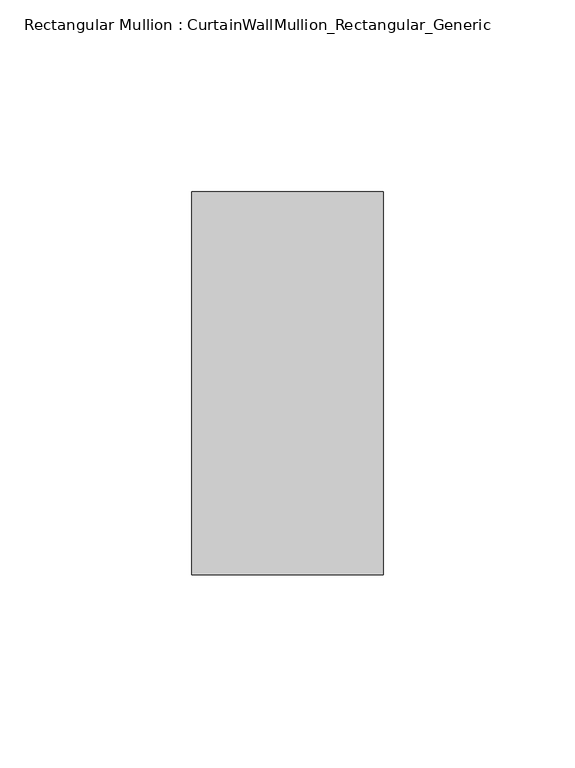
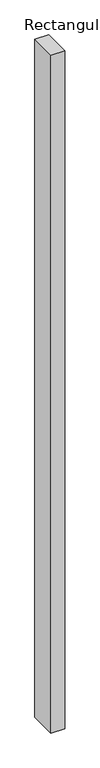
"""IFC4 building model written with IfcOpenShell, lengths in millimetres: member geometry, Rectangular Mullion : CurtainWallMullion_Rectangular_Generic."""

from ifc_helpers import new_model, si_unit, frame, origin, place, context, project, spatial, polyline, outline, extrude, source, transform, mapped, element, save


def rectangular_mullion_curtainwallmullion_rectangular_generic_e7c47ca9(model_context):
    return source(origin(), model_context, "Body", "SweptSolid", [
        extrude(outline(polyline([(0.0, 50.0), (0.0, -50.0), (-50.0, -50.0), (-50.0, 50.0), (0.0, 50.0)])), frame((0.0, 0.0, -2600.0), z_axis=(0.0, 0.0, 1.0), x_axis=(1.0, 0.0, 0.0)), (0.0, 0.0, 1.0), 2600.0),
    ])


if __name__ == "__main__":
    model = new_model("IFC4")
    model_context = context("Model", 3, world=origin())
    ifc_project = project(units=[si_unit("LENGTHUNIT", "METRE", prefix="MILLI")], contexts=[model_context])
    site = spatial("IfcSite", under=ifc_project)
    building = spatial("IfcBuilding", under=site)
    placement = place(None, origin())
    rectangular_mullion_curtainwallmullion_rectangular_generic_shape = rectangular_mullion_curtainwallmullion_rectangular_generic_e7c47ca9(model_context)
    element("IfcMember", 1, ObjectType="Rectangular Mullion : CurtainWallMullion_Rectangular_Generic", at=placement, inside=building, context=model_context, shape_type="MappedRepresentation", body=[
        mapped(rectangular_mullion_curtainwallmullion_rectangular_generic_shape, transform((0.0, 0.0, 0.0), x_axis=(1.0, 0.0, 0.0), y_axis=(0.0, 1.0, 0.0), z_axis=(0.0, 0.0, 1.0))),
    ])
    save(model, "model.ifc")
